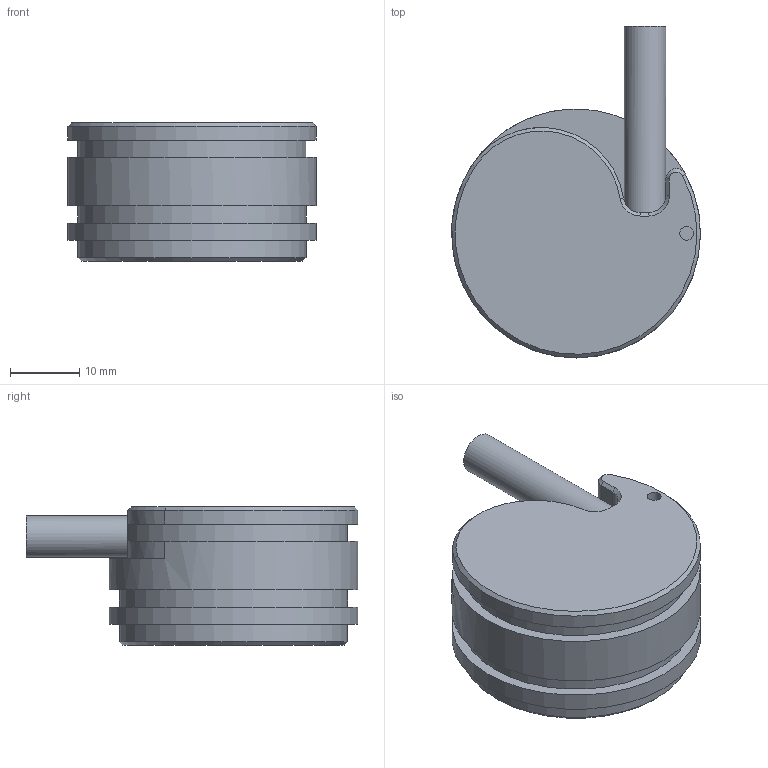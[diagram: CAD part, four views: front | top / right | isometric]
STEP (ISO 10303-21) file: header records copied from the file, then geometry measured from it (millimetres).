
FILE_DESCRIPTION((''),'2;1');
FILE_NAME('C:\Dokumente und Einstellungen\kamp.ASM\Eigene Dateien\Kundenmodelle\Pras2-Kundenmodell1.stp','2007-06-05T13:52:21',('kamp'),(''),'Autodesk Inventor 11','Autodesk Inventor 11','');
FILE_SCHEMA(('AUTOMOTIVE_DESIGN { 1 0 10303 214 1 1 1 1 }'));
Length unit declared in the file: millimetre
Products named in the file (1): Pras2-Kundenmodell1
Bounding box: 36 x 48 x 20 mm (x, y, z)
Volume: 18835.6 mm3; surface area: 5278.1 mm2
Topology: 1 solids, 1 shells, 35 faces, 77 edges, 48 vertices
Faces by surface type: plane 15, cylinder 12, cone 6, bspline 2
Full cylindrical faces by diameter (mm): 6 x1, 33 x2, 36 x2
Entity records: 1023 total; most frequent: CARTESIAN_POINT 243, DIRECTION 170, ORIENTED_EDGE 138, AXIS2_PLACEMENT_3D 70, EDGE_CURVE 69, VERTEX_POINT 46, EDGE_LOOP 46, CIRCLE 36
